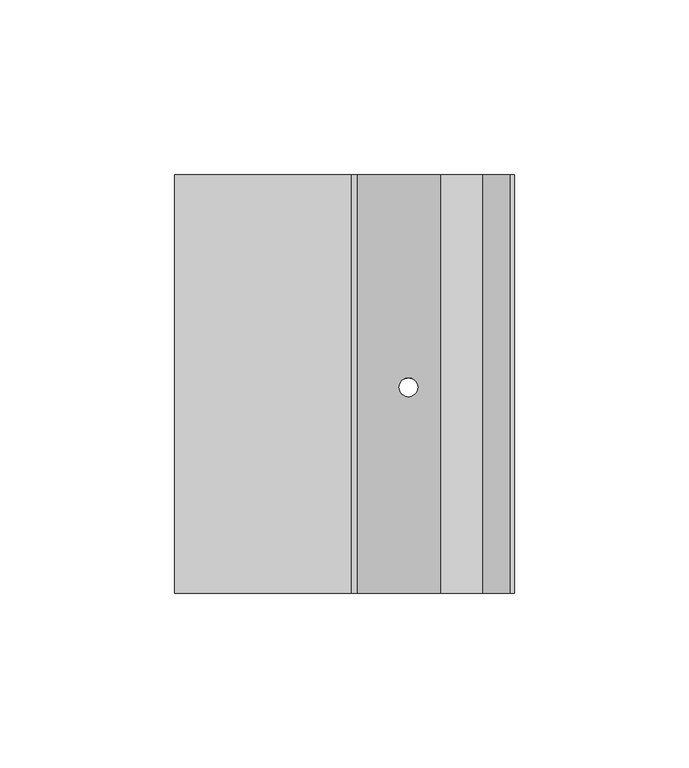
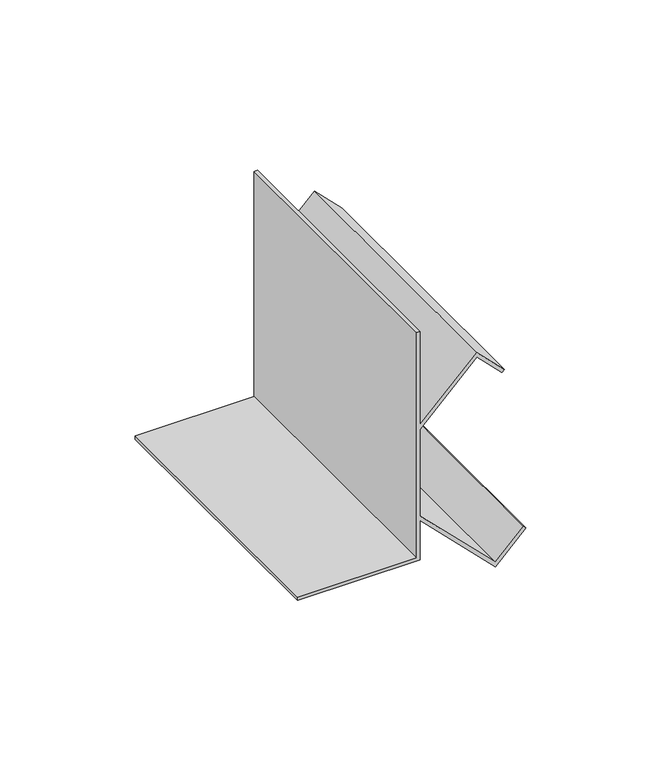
"""IFC4 building model written with IfcOpenShell, lengths in millimetres: proxy geometry, Mechanical Fittings & Accessories8 : Mechanical Fittings & Accessories."""

from ifc_helpers import new_model, si_unit, frame, origin, place, context, project, spatial, polyline, ellipse_curve, source, transform, mapped, element, save
from ifc_brep_helpers import plane_surface, revolved_surface, advanced_brep


def generic_models_c1631bf7(model_context):
    return source(origin(), model_context, "Body", "AdvancedBrep", [
        advanced_brep(
        [(-10977.7433312, 10780.4963986, 4114.8), (-11028.5433312, 10780.4963986, 4114.8), (-11028.5433312, 10780.4963986, 4113.3117188), (-10976.25505, 10780.4963986, 4113.3117188), (-10976.25505, 10780.4963986, 4131.1383509), (-10944.145289, 10780.4963986, 4099.0285899), (-10931.1663177, 10780.4963986, 4112.0075612), (-10932.2186914, 10780.4963986, 4113.059935), (-10944.145289, 10780.4963986, 4101.1333374), (-10976.25505, 10780.4963986, 4133.2430984), (-10976.25505, 10780.4963986, 4172.2761118), (-10952.082789, 10780.4963986, 4196.4483729), (-10941.3468164, 10780.4963986, 4185.7124003), (-10940.2944427, 10780.4963986, 4186.7647741), (-10952.082789, 10780.4963986, 4198.5531204), (-10976.25505, 10780.4963986, 4174.3808594), (-10976.25505, 10780.4963986, 4216.4), (-10977.7433312, 10780.4963986, 4216.4), (-10977.7433312, 10900.4645457, 4114.8), (-10977.7433312, 10900.4645457, 4216.4), (-10976.25505, 10900.4645457, 4216.4), (-10976.25505, 10900.4645457, 4174.3808594), (-10952.082789, 10900.4645457, 4198.5531204), (-10940.2944427, 10900.4645457, 4186.7647741), (-10941.3468164, 10900.4645457, 4185.7124003), (-10952.082789, 10900.4645457, 4196.4483729), (-10976.25505, 10900.4645457, 4172.2761118), (-10976.25505, 10900.4645457, 4133.2430984), (-10944.145289, 10900.4645457, 4101.1333374), (-10932.2186914, 10900.4645457, 4113.059935), (-10931.1663177, 10900.4645457, 4112.0075612), (-10944.145289, 10900.4645457, 4099.0285899), (-10976.25505, 10900.4645457, 4131.1383509), (-10976.25505, 10900.4645457, 4113.3117188), (-11028.5433312, 10900.4645457, 4113.3117188), (-11028.5433312, 10900.4645457, 4114.8), (-10964.1411396, 10839.5191481, 4119.0244406), (-10958.8017728, 10839.5191481, 4113.6850737), (-10958.8017728, 10839.5191481, 4115.7898213), (-10964.1411396, 10839.5191481, 4121.1291881), (-10964.1411396, 10839.5191481, 4184.3900222), (-10958.8017728, 10839.5191481, 4189.729389), (-10958.8017728, 10839.5191481, 4191.8341365), (-10964.1411396, 10839.5191481, 4186.4947697)],
        [
            (0, 1),
            (1, 2),
            (2, 3),
            (3, 4),
            (4, 5),
            (5, 6),
            (6, 7),
            (7, 8),
            (8, 9),
            (9, 10),
            (10, 11),
            (11, 12),
            (12, 13),
            (13, 14),
            (14, 15),
            (15, 16),
            (16, 17),
            (17, 0),
            (18, 19),
            (19, 20),
            (20, 21),
            (21, 22),
            (22, 23),
            (23, 24),
            (24, 25),
            (25, 26),
            (26, 27),
            (27, 28),
            (28, 29),
            (29, 30),
            (30, 31),
            (31, 32),
            (32, 33),
            (33, 34),
            (34, 35),
            (35, 18),
            (0, 18),
            (35, 1),
            (34, 2),
            (33, 3),
            (32, 4),
            (31, 5),
            (36, 37, ellipse_curve(frame((-10961.4714562, 10839.5191481, 4116.3547571), z_axis=(0.7071067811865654, 0.0, 0.7071067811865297), x_axis=(-0.7071067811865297, 0.0, 0.7071067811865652)), 3.7755025, 2.6696834)),
            (37, 36, ellipse_curve(frame((-10961.4714562, 10839.5191481, 4116.3547571), z_axis=(0.7071067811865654, 0.0, 0.7071067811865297), x_axis=(-0.7071067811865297, 0.0, 0.7071067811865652)), 3.7755025, 2.6696834)),
            (30, 6),
            (29, 7),
            (28, 8),
            (27, 9),
            (38, 39, ellipse_curve(frame((-10961.4714562, 10839.5191481, 4118.4595047), z_axis=(-0.7071067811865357, 0.0, -0.7071067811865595), x_axis=(-0.7071067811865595, 0.0, 0.7071067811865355)), 3.7755025, 2.6696834)),
            (39, 38, ellipse_curve(frame((-10961.4714562, 10839.5191481, 4118.4595047), z_axis=(-0.7071067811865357, 0.0, -0.7071067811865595), x_axis=(-0.7071067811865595, 0.0, 0.7071067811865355)), 3.7755025, 2.6696834)),
            (26, 10),
            (25, 11),
            (40, 41, ellipse_curve(frame((-10961.4714562, 10839.5191481, 4187.0597056), z_axis=(-0.7071067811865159, 0.0, 0.7071067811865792), x_axis=(0.7071067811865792, 0.0, 0.7071067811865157)), 3.7755025, 2.6696834)),
            (41, 40, ellipse_curve(frame((-10961.4714562, 10839.5191481, 4187.0597056), z_axis=(-0.7071067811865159, 0.0, 0.7071067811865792), x_axis=(0.7071067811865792, 0.0, 0.7071067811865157)), 3.7755025, 2.6696834)),
            (24, 12),
            (23, 13),
            (22, 14),
            (21, 15),
            (42, 43, ellipse_curve(frame((-10961.4714562, 10839.5191481, 4189.1644531), z_axis=(0.7071067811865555, 0.0, -0.7071067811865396), x_axis=(0.7071067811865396, 0.0, 0.7071067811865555)), 3.7755025, 2.6696834)),
            (43, 42, ellipse_curve(frame((-10961.4714562, 10839.5191481, 4189.1644531), z_axis=(0.7071067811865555, 0.0, -0.7071067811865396), x_axis=(0.7071067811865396, 0.0, 0.7071067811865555)), 3.7755025, 2.6696834)),
            (20, 16),
            (19, 17),
            (36, 39),
            (38, 37),
            (40, 43),
            (42, 41),
        ],
        [
            plane_surface(frame((-11028.5433312, 10780.4963986, 4114.8), z_axis=(0.0, -1.0, 0.0), x_axis=(-1.0, 0.0, 0.0))),
            plane_surface(frame((-11028.5433312, 10900.4645457, 4114.8), z_axis=(0.0, 1.0, 0.0), x_axis=(1.0, 0.0, 0.0))),
            plane_surface(frame((-10977.7433312, 10780.4963986, 4114.8), z_axis=(0.0, 0.0, 1.0), x_axis=(0.0, 1.0, 0.0))),
            plane_surface(frame((-11028.5433312, 10780.4963986, 4114.8), z_axis=(-1.0, 0.0, 0.0), x_axis=(0.0, 1.0, 0.0))),
            plane_surface(frame((-11028.5433312, 10780.4963986, 4113.3117188), z_axis=(0.0, 0.0, -1.0), x_axis=(0.0, 1.0, 0.0))),
            plane_surface(frame((-10976.25505, 10780.4963986, 4113.3117188), z_axis=(1.0, 0.0, 0.0), x_axis=(0.0, 1.0, 0.0))),
            plane_surface(frame((-10976.25505, 10780.4963986, 4131.1383509), z_axis=(-0.7071067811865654, 0.0, -0.7071067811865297), x_axis=(0.0, 1.0, 0.0))),
            plane_surface(frame((-10944.145289, 10780.4963986, 4099.0285899), z_axis=(0.7071067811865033, 0.0, -0.7071067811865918), x_axis=(0.0, 1.0, 0.0))),
            plane_surface(frame((-10931.1663177, 10780.4963986, 4112.0075612), z_axis=(0.7071067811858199, 0.0, 0.7071067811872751), x_axis=(0.0, 1.0, 0.0))),
            plane_surface(frame((-10932.2186914, 10780.4963986, 4113.059935), z_axis=(-0.7071067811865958, 0.0, 0.7071067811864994), x_axis=(0.0, 1.0, 0.0))),
            plane_surface(frame((-10944.145289, 10780.4963986, 4101.1333374), z_axis=(0.7071067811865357, 0.0, 0.7071067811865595), x_axis=(0.0, 1.0, 0.0))),
            plane_surface(frame((-10976.25505, 10780.4963986, 4133.2430984), z_axis=(1.0, 0.0, 0.0), x_axis=(0.0, 1.0, 0.0))),
            plane_surface(frame((-10976.25505, 10780.4963986, 4172.2761118), z_axis=(0.7071067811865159, 0.0, -0.7071067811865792), x_axis=(0.0, 1.0, 0.0))),
            plane_surface(frame((-10952.082789, 10780.4963986, 4196.4483729), z_axis=(-0.7071067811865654, 0.0, -0.7071067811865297), x_axis=(0.0, 1.0, 0.0))),
            plane_surface(frame((-10941.3468164, 10780.4963986, 4185.7124003), z_axis=(0.7071067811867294, 0.0, -0.7071067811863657), x_axis=(0.0, 1.0, 0.0))),
            plane_surface(frame((-10940.2944427, 10780.4963986, 4186.7647741), z_axis=(0.7071067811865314, 0.0, 0.7071067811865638), x_axis=(0.0, 1.0, 0.0))),
            plane_surface(frame((-10952.082789, 10780.4963986, 4198.5531204), z_axis=(-0.7071067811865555, 0.0, 0.7071067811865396), x_axis=(0.0, 1.0, 0.0))),
            plane_surface(frame((-10976.25505, 10780.4963986, 4174.3808594), z_axis=(1.0, 0.0, 0.0), x_axis=(0.0, 1.0, 0.0))),
            plane_surface(frame((-10976.25505, 10780.4963986, 4216.4), z_axis=(0.0, 0.0, 1.0), x_axis=(0.0, 1.0, 0.0))),
            plane_surface(frame((-10977.7433312, 10780.4963986, 4216.4), z_axis=(-1.0, 0.0, 0.0), x_axis=(0.0, 1.0, 0.0))),
            revolved_surface(polyline([(-10958.801772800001, 10839.5191481, 4121.129188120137), (-10958.801772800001, 10839.5191481, 4113.685073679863)]), (-10961.4714562, 10839.5191481, 4097.2034211), (0.0, 0.0, 1.0)),
            revolved_surface(polyline([(-10958.801772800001, 10839.5191481, 4191.834136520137), (-10958.801772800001, 10839.5191481, 4184.390022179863)]), (-10961.4714562, 10839.5191481, 4097.2034211), (0.0, 0.0, 1.0)),
        ],
        [
            (0, [[1, 2, 3, 4, 5, 6, 7, 8, 9, 10, 11, 12, 13, 14, 15, 16, 17, 18]]),
            (1, [[19, 20, 21, 22, 23, 24, 25, 26, 27, 28, 29, 30, 31, 32, 33, 34, 35, 36]]),
            (2, [[-1, 37, -36, 38]]),
            (3, [[-2, -38, -35, 39]]),
            (4, [[-3, -39, -34, 40]]),
            (5, [[-4, -40, -33, 41]]),
            (6, [[-5, -41, -32, 42], [43, 44]]),
            (7, [[-6, -42, -31, 45]]),
            (8, [[-7, -45, -30, 46]]),
            (9, [[-8, -46, -29, 47]]),
            (10, [[-9, -47, -28, 48], [49, 50]]),
            (11, [[-10, -48, -27, 51]]),
            (12, [[-11, -51, -26, 52], [53, 54]]),
            (13, [[-12, -52, -25, 55]]),
            (14, [[-13, -55, -24, 56]]),
            (15, [[-14, -56, -23, 57]]),
            (16, [[-15, -57, -22, 58], [59, 60]]),
            (17, [[-16, -58, -21, 61]]),
            (18, [[-17, -61, -20, 62]]),
            (19, [[-18, -62, -19, -37]]),
            (20, [[63, -49, 64, -43]]),
            (21, [[65, -59, 66, -53]]),
            (20, [[-63, -44, -64, -50]]),
            (21, [[-65, -54, -66, -60]]),
        ],
    ),
    ])


if __name__ == "__main__":
    model = new_model("IFC4")
    model_context = context("Model", 3, world=origin())
    ifc_project = project(units=[si_unit("LENGTHUNIT", "METRE", prefix="MILLI")], contexts=[model_context])
    site = spatial("IfcSite", under=ifc_project)
    building = spatial("IfcBuilding", under=site)
    placement = place(None, origin())
    generic_models_shape = generic_models_c1631bf7(model_context)
    element("IfcBuildingElementProxy", 1, Name="Mechanical Fittings & Accessories8 : Mechanical Fittings & Accessories", ObjectType="Mechanical Fittings & Accessories8 : Mechanical Fittings & Accessories", at=placement, inside=building, context=model_context, shape_type="MappedRepresentation", body=[
        mapped(generic_models_shape, transform((0.0, 0.0, 0.0), x_axis=(1.0, 0.0, 0.0), y_axis=(0.0, 1.0, 0.0), z_axis=(0.0, 0.0, 1.0))),
    ])
    save(model, "model.ifc")
